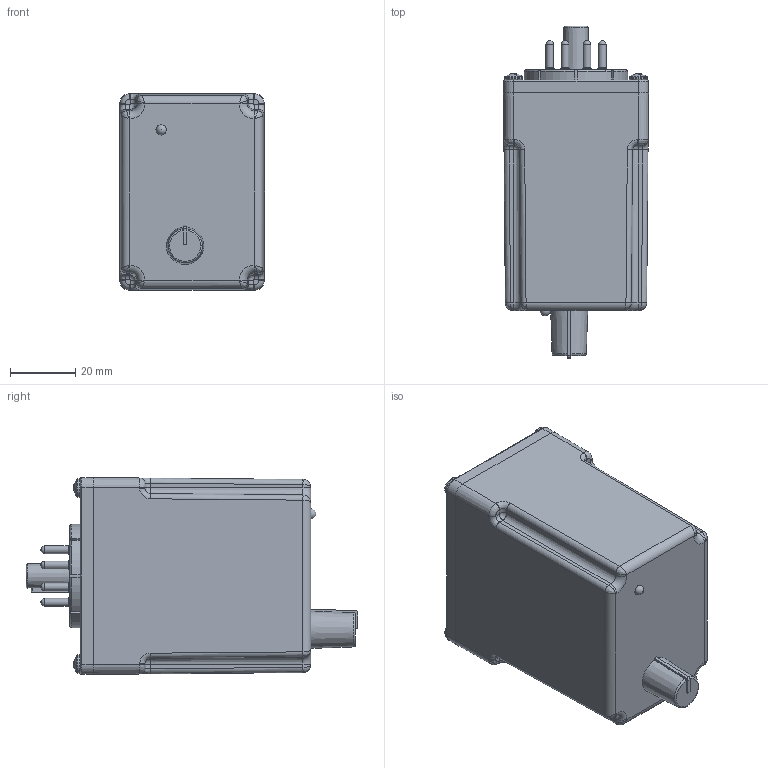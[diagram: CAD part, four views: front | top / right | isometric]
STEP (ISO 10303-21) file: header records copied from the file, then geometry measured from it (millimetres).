
FILE_DESCRIPTION(('FreeCAD Model'),'2;1');
FILE_NAME('Open CASCADE Shape Model','2023-06-06T13:51:19',(''),(''), 'Open CASCADE STEP processor 7.6','FreeCAD','Unknown');
FILE_SCHEMA(('AUTOMOTIVE_DESIGN { 1 0 10303 214 1 1 1 1 }'));
Products named in the file (1): Compound
Bounding box: 44.45 x 101.73 x 60.33 mm (x, y, z)
Surface area: 44186.6 mm2 (no closed solid volume)
Topology: 0 solids, 20 shells, 1861 faces, 4765 edges, 2954 vertices
Faces by surface type: plane 699, cylinder 683, bspline 200, torus 123, cone 59, sphere 57, revolution 40
Full cylindrical faces by diameter (mm): 0.254 x16, 1.257 x8, 1.714 x8, 1.905 x16, 2.362 x16, 2.464 x8, 3.175 x4, 4.191 x8, 7.925 x1
Entity records: 174939 total; most frequent: CARTESIAN_POINT 85323, DIRECTION 15323, ORIENTED_EDGE 9384, PCURVE 9384, DEFINITIONAL_REPRESENTATION 9384, LINE 9113, VECTOR 9113, EDGE_CURVE 4700
